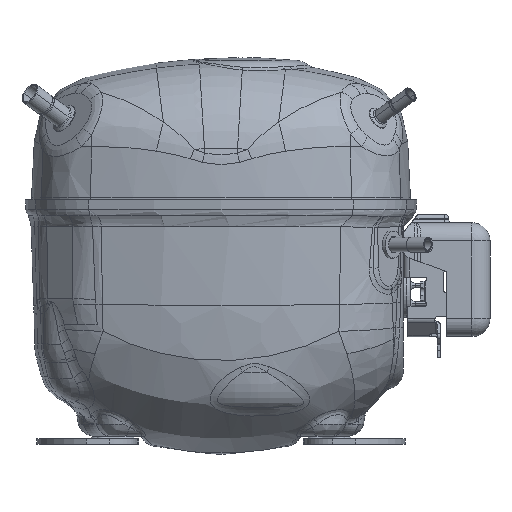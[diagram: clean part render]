
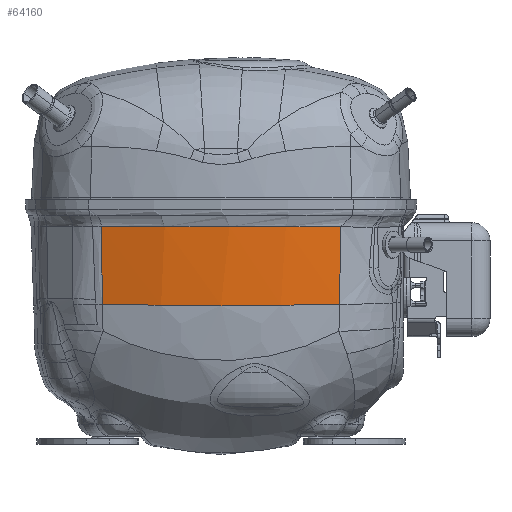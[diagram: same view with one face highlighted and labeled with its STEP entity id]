
A CAD part, left-side view. The second image highlights one B-rep face of the part: STEP entity #64160.
In plain terms, the highlighted toroidal (fillet/blend) face has major radius 577.563 mm and minor radius 225.485 mm.
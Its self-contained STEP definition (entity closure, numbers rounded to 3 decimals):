
#47128=CARTESIAN_POINT('',(-66.82,78.513,
-20.374));
#47140=CARTESIAN_POINT('',(-66.82,78.513,
-20.374));
#47141=CARTESIAN_POINT('',(-70.12,67.79,
-20.375));
#47142=CARTESIAN_POINT('',(-75.119,45.848,
-20.376));
#47143=CARTESIAN_POINT('',(-77.637,12.188,
-20.377));
#47144=CARTESIAN_POINT('',(-75.119,-21.472,
-20.376));
#47145=CARTESIAN_POINT('',(-70.12,-43.414,
-20.375));
#47146=CARTESIAN_POINT('',(-66.82,-54.137,-20.374));
#47148=CARTESIAN_POINT('',(-66.82,-54.137,-20.374));
#47149=CARTESIAN_POINT('',(-66.471,-54.066,
-34.691));
#47150=CARTESIAN_POINT('',(-65.779,-53.849,
-48.995));
#47151=CARTESIAN_POINT('',(-64.755,-53.458,
-63.259));
#47153=CARTESIAN_POINT('',(-64.755,77.834,
-63.259));
#47154=CARTESIAN_POINT('',(-65.779,78.225,
-48.995));
#47155=CARTESIAN_POINT('',(-66.471,78.442,
-34.691));
#47156=CARTESIAN_POINT('',(-66.82,78.513,
-20.374));
#54173=CARTESIAN_POINT('',(150.275,12.188,-46.017));
#54174=DIRECTION('',(-0.08,0.,0.997));
#54175=DIRECTION('',(-0.954,0.291,-0.076));
#54176=AXIS2_PLACEMENT_3D('',#54173,#54174,#54175);
#55304=VERTEX_POINT('',#47128);
#55305=VERTEX_POINT('',#47153);
#55308=VERTEX_POINT('',#47146);
#55309=VERTEX_POINT('',#47151);
#64146=CARTESIAN_POINT('',(725.989,12.188,
0.147));
#64147=DIRECTION('',(0.,-1.,0.));
#64148=DIRECTION('',(-1.,0.,-0.005));
#64149=AXIS2_PLACEMENT_3D('',#64146,#64147,#64148);
#64150=TOROIDAL_SURFACE('',#64149,577.563,225.485);
#64152=ORIENTED_EDGE('',*,*,#64151,.T.);
#64154=ORIENTED_EDGE('',*,*,#64153,.T.);
#64156=ORIENTED_EDGE('',*,*,#64155,.F.);
#64157=ORIENTED_EDGE('',*,*,#64135,.T.);
#64158=EDGE_LOOP('',(#64152,#64154,#64156,#64157));
#64159=FACE_OUTER_BOUND('',#64158,.F.);
#64160=ADVANCED_FACE('',(#64159),#64150,.T.);
#47147=B_SPLINE_CURVE_WITH_KNOTS('',3,(#47140,#47141,#47142,#47143,#47144,
#47145,#47146),.UNSPECIFIED.,.F.,.F.,(4,1,1,1,4),(0.,0.25,
0.5,0.75,1.),.UNSPECIFIED.);
#47152=B_SPLINE_CURVE_WITH_KNOTS('',3,(#47148,#47149,#47150,#47151),
.UNSPECIFIED.,.F.,.F.,(4,4),(0.,1.),.UNSPECIFIED.);
#47157=B_SPLINE_CURVE_WITH_KNOTS('',3,(#47153,#47154,#47155,#47156),
.UNSPECIFIED.,.F.,.F.,(4,4),(0.,1.),.UNSPECIFIED.);
#54177=CIRCLE('',#54176,225.487);
#64135=EDGE_CURVE('',#55305,#55304,#47157,.T.);
#64151=EDGE_CURVE('',#55304,#55308,#47147,.T.);
#64153=EDGE_CURVE('',#55308,#55309,#47152,.T.);
#64155=EDGE_CURVE('',#55305,#55309,#54177,.T.);
